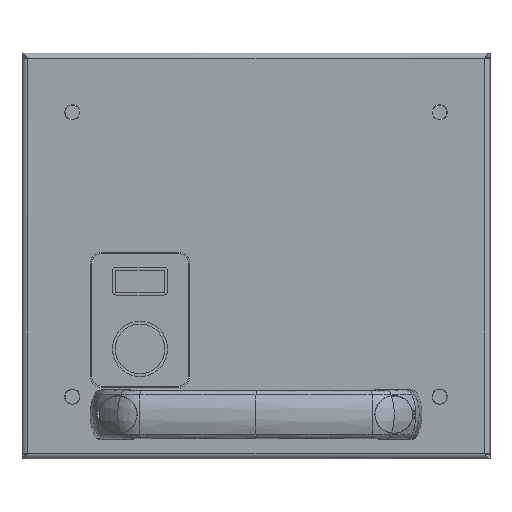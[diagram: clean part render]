
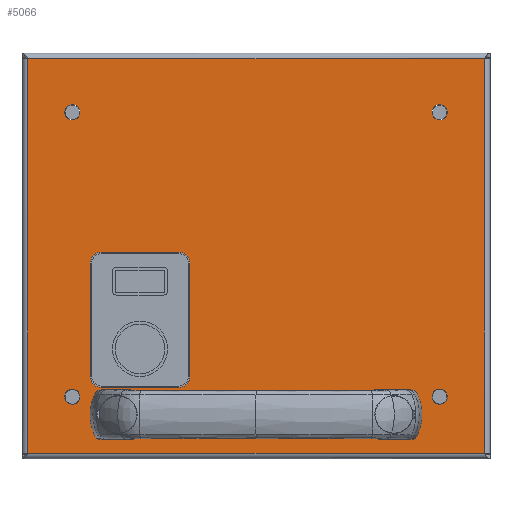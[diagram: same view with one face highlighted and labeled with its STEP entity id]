
A CAD part, top view. The second image highlights one B-rep face of the part: STEP entity #5066.
In plain terms, the highlighted planar face has unit normal (0, 0, 1).
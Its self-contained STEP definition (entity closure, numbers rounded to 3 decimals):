
#4106=CARTESIAN_POINT(' ',(52.75,-57.5,0.));
#4107=VERTEX_POINT(' ',#4106);
#4126=CARTESIAN_POINT(' ',(50.,-57.5,0.));
#4131=DIRECTION(' ',(0.,0.,1.));
#4136=DIRECTION(' ',(1.,0.,0.));
#4141=AXIS2_PLACEMENT_3D(' ',#4126,#4131,#4136);
#4146=CIRCLE('',#4141,2.75);
#4151=CARTESIAN_POINT(' ',(47.25,-57.5,0.));
#4152=VERTEX_POINT(' ',#4151);
#4156=EDGE_CURVE(' ',#4107,#4152,#4146,.T.);
#4326=CARTESIAN_POINT(' ',(50.,-57.5,0.));
#4331=DIRECTION(' ',(0.,0.,1.));
#4336=DIRECTION(' ',(-1.,0.,0.));
#4341=AXIS2_PLACEMENT_3D(' ',#4326,#4331,#4336);
#4346=CIRCLE('',#4341,2.75);
#4351=EDGE_CURVE(' ',#4152,#4107,#4346,.T.);
#4421=DIRECTION(' ',(-0.,-0.,1.));
#4426=CARTESIAN_POINT(' ',(82.65,-71.4,0.));
#4431=DIRECTION(' ',(0.,1.,0.));
#4436=AXIS2_PLACEMENT_3D(' ',#4426,#4421,#4431);
#4441=PLANE('NONE',#4436);
#4446=CARTESIAN_POINT(' ',(82.65,-71.4,0.));
#4451=DIRECTION(' ',(0.,1.,0.));
#4456=VECTOR(' ',#4451,1.);
#4461=LINE('',#4446,#4456);
#4466=CARTESIAN_POINT(' ',(82.65,-71.4,0.));
#4467=VERTEX_POINT(' ',#4466);
#4471=CARTESIAN_POINT(' ',(82.65,71.4,0.));
#4472=VERTEX_POINT(' ',#4471);
#4476=EDGE_CURVE(' ',#4467,#4472,#4461,.T.);
#4481=ORIENTED_EDGE(' ',*,*,#4476,.T.);
#4486=CARTESIAN_POINT(' ',(82.65,71.4,0.));
#4491=DIRECTION(' ',(-1.,0.,0.));
#4496=VECTOR(' ',#4491,1.);
#4501=LINE('',#4486,#4496);
#4506=CARTESIAN_POINT(' ',(-82.65,71.4,0.));
#4507=VERTEX_POINT(' ',#4506);
#4511=EDGE_CURVE(' ',#4472,#4507,#4501,.T.);
#4516=ORIENTED_EDGE(' ',*,*,#4511,.T.);
#4521=CARTESIAN_POINT(' ',(-82.65,71.4,0.));
#4526=DIRECTION(' ',(0.,-1.,0.));
#4531=VECTOR(' ',#4526,1.);
#4536=LINE('',#4521,#4531);
#4541=CARTESIAN_POINT(' ',(-82.65,-71.4,0.));
#4542=VERTEX_POINT(' ',#4541);
#4546=EDGE_CURVE(' ',#4507,#4542,#4536,.T.);
#4551=ORIENTED_EDGE(' ',*,*,#4546,.T.);
#4556=CARTESIAN_POINT(' ',(-82.65,-71.4,0.));
#4561=DIRECTION(' ',(1.,0.,0.));
#4566=VECTOR(' ',#4561,1.);
#4571=LINE('',#4556,#4566);
#4576=EDGE_CURVE(' ',#4542,#4467,#4571,.T.);
#4581=ORIENTED_EDGE(' ',*,*,#4576,.T.);
#4586=EDGE_LOOP(' ',(#4481,#4516,#4551,#4581));
#4591=FACE_OUTER_BOUND(' ',#4586,.T.);
#4596=ORIENTED_EDGE(' ',*,*,#4351,.F.);
#4601=ORIENTED_EDGE(' ',*,*,#4156,.F.);
#4606=EDGE_LOOP(' ',(#4596,#4601));
#4611=FACE_BOUND(' ',#4606,.T.);
#4616=CARTESIAN_POINT(' ',(-66.5,52.,0.));
#4621=DIRECTION(' ',(0.,-0.,-1.));
#4626=DIRECTION(' ',(-1.,0.,0.));
#4631=AXIS2_PLACEMENT_3D(' ',#4616,#4621,#4626);
#4636=CIRCLE('',#4631,2.75);
#4641=CARTESIAN_POINT(' ',(-69.25,52.,0.));
#4642=VERTEX_POINT(' ',#4641);
#4646=CARTESIAN_POINT(' ',(-63.75,52.,0.));
#4647=VERTEX_POINT(' ',#4646);
#4651=EDGE_CURVE(' ',#4642,#4647,#4636,.T.);
#4656=ORIENTED_EDGE(' ',*,*,#4651,.T.);
#4661=CARTESIAN_POINT(' ',(-66.5,52.,0.));
#4666=DIRECTION(' ',(0.,0.,-1.));
#4671=DIRECTION(' ',(1.,0.,0.));
#4676=AXIS2_PLACEMENT_3D(' ',#4661,#4666,#4671);
#4681=CIRCLE('',#4676,2.75);
#4686=EDGE_CURVE(' ',#4647,#4642,#4681,.T.);
#4691=ORIENTED_EDGE(' ',*,*,#4686,.T.);
#4696=EDGE_LOOP(' ',(#4656,#4691));
#4701=FACE_BOUND(' ',#4696,.T.);
#4706=CARTESIAN_POINT(' ',(66.5,-51.,0.));
#4711=DIRECTION(' ',(0.,-0.,-1.));
#4716=DIRECTION(' ',(-1.,0.,0.));
#4721=AXIS2_PLACEMENT_3D(' ',#4706,#4711,#4716);
#4726=CIRCLE('',#4721,2.75);
#4731=CARTESIAN_POINT(' ',(63.75,-51.,0.));
#4732=VERTEX_POINT(' ',#4731);
#4736=CARTESIAN_POINT(' ',(69.25,-51.,0.));
#4737=VERTEX_POINT(' ',#4736);
#4741=EDGE_CURVE(' ',#4732,#4737,#4726,.T.);
#4746=ORIENTED_EDGE(' ',*,*,#4741,.T.);
#4751=CARTESIAN_POINT(' ',(66.5,-51.,0.));
#4756=DIRECTION(' ',(0.,0.,-1.));
#4761=DIRECTION(' ',(1.,0.,0.));
#4766=AXIS2_PLACEMENT_3D(' ',#4751,#4756,#4761);
#4771=CIRCLE('',#4766,2.75);
#4776=EDGE_CURVE(' ',#4737,#4732,#4771,.T.);
#4781=ORIENTED_EDGE(' ',*,*,#4776,.T.);
#4786=EDGE_LOOP(' ',(#4746,#4781));
#4791=FACE_BOUND(' ',#4786,.T.);
#4796=CARTESIAN_POINT(' ',(-66.5,-51.,0.));
#4801=DIRECTION(' ',(0.,-0.,-1.));
#4806=DIRECTION(' ',(-1.,0.,0.));
#4811=AXIS2_PLACEMENT_3D(' ',#4796,#4801,#4806);
#4816=CIRCLE('',#4811,2.75);
#4821=CARTESIAN_POINT(' ',(-69.25,-51.,0.));
#4822=VERTEX_POINT(' ',#4821);
#4826=CARTESIAN_POINT(' ',(-63.75,-51.,0.));
#4827=VERTEX_POINT(' ',#4826);
#4831=EDGE_CURVE(' ',#4822,#4827,#4816,.T.);
#4836=ORIENTED_EDGE(' ',*,*,#4831,.T.);
#4841=CARTESIAN_POINT(' ',(-66.5,-51.,0.));
#4846=DIRECTION(' ',(0.,0.,-1.));
#4851=DIRECTION(' ',(1.,0.,0.));
#4856=AXIS2_PLACEMENT_3D(' ',#4841,#4846,#4851);
#4861=CIRCLE('',#4856,2.75);
#4866=EDGE_CURVE(' ',#4827,#4822,#4861,.T.);
#4871=ORIENTED_EDGE(' ',*,*,#4866,.T.);
#4876=EDGE_LOOP(' ',(#4836,#4871));
#4881=FACE_BOUND(' ',#4876,.T.);
#4886=CARTESIAN_POINT(' ',(66.5,52.,0.));
#4891=DIRECTION(' ',(0.,-0.,-1.));
#4896=DIRECTION(' ',(-1.,0.,0.));
#4901=AXIS2_PLACEMENT_3D(' ',#4886,#4891,#4896);
#4906=CIRCLE('',#4901,2.75);
#4911=CARTESIAN_POINT(' ',(63.75,52.,0.));
#4912=VERTEX_POINT(' ',#4911);
#4916=CARTESIAN_POINT(' ',(69.25,52.,0.));
#4917=VERTEX_POINT(' ',#4916);
#4921=EDGE_CURVE(' ',#4912,#4917,#4906,.T.);
#4926=ORIENTED_EDGE(' ',*,*,#4921,.T.);
#4931=CARTESIAN_POINT(' ',(66.5,52.,0.));
#4936=DIRECTION(' ',(0.,0.,-1.));
#4941=DIRECTION(' ',(1.,0.,0.));
#4946=AXIS2_PLACEMENT_3D(' ',#4931,#4936,#4941);
#4951=CIRCLE('',#4946,2.75);
#4956=EDGE_CURVE(' ',#4917,#4912,#4951,.T.);
#4961=ORIENTED_EDGE(' ',*,*,#4956,.T.);
#4966=EDGE_LOOP(' ',(#4926,#4961));
#4971=FACE_BOUND(' ',#4966,.T.);
#4976=CARTESIAN_POINT(' ',(-50.,-57.5,0.));
#4981=DIRECTION(' ',(0.,0.,1.));
#4986=DIRECTION(' ',(-1.,0.,0.));
#4991=AXIS2_PLACEMENT_3D(' ',#4976,#4981,#4986);
#4996=CIRCLE('',#4991,2.75);
#5001=CARTESIAN_POINT(' ',(-52.75,-57.5,0.));
#5002=VERTEX_POINT(' ',#5001);
#5006=CARTESIAN_POINT(' ',(-47.25,-57.5,0.));
#5007=VERTEX_POINT(' ',#5006);
#5011=EDGE_CURVE(' ',#5002,#5007,#4996,.T.);
#5016=ORIENTED_EDGE(' ',*,*,#5011,.F.);
#5021=CARTESIAN_POINT(' ',(-50.,-57.5,0.));
#5026=DIRECTION(' ',(0.,0.,1.));
#5031=DIRECTION(' ',(1.,0.,0.));
#5036=AXIS2_PLACEMENT_3D(' ',#5021,#5026,#5031);
#5041=CIRCLE('',#5036,2.75);
#5046=EDGE_CURVE(' ',#5007,#5002,#5041,.T.);
#5051=ORIENTED_EDGE(' ',*,*,#5046,.F.);
#5056=EDGE_LOOP(' ',(#5016,#5051));
#5061=FACE_BOUND(' ',#5056,.T.);
#5066=ADVANCED_FACE('NONE',(#4591,#4611,#4701,#4791,#4881,#4971,#5061),#4441,.T.);
